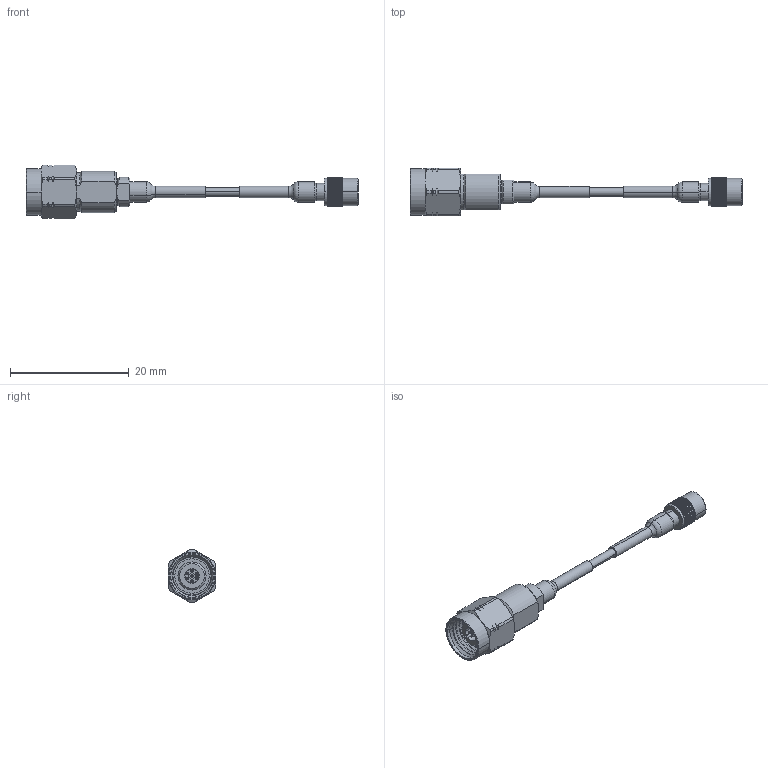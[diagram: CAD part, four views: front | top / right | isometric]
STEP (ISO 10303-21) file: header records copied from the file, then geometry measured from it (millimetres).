
FILE_DESCRIPTION (( 'STEP AP203' ), '1' );
FILE_NAME ('187S10474200.STEP', '2016-08-25T14:31:53', ( '' ), ( '' ), 'SwSTEP 2.0', 'SolidWorks 2014', '' );
FILE_SCHEMA (( 'CONFIG_CONTROL_DESIGN' ));
Length unit declared in the file: inch
Products named in the file (24): C6462-4; 102-1150-700000A; 103-1416-226470A; C6489-4; 4879781010; 102-1121-700000A; P176TL-1CC_CORE GD CABLE END; TLL26-5047_Temp-flex 29 AWG COAX #047SC-29 01; 105-0064-400000A; 7211916111; 2200-18; 107-0005-900000B; 187S10474200; C6294-2; 60-10006-44471A; C6395-2; 101-2068-121470A; 101-2043-440000B; C6398-2_AS MACHINED; 101-2069-440470A; 101-2066-440000A; C6461-1; 101-2070-121470A; 101-2067-440470A
Assembly tree (24 placements, depth 4):
  187S10474200
    4879781010
      60-10006-44471A
        101-2043-440000B
        101-2066-440000A
        101-2067-440470A
        103-1416-226470A
        102-1121-700000A
        105-0064-400000A
        107-0005-900000B
      101-2068-121470A
      101-2069-440470A
      101-2070-121470A
      102-1150-700000A
    TLL26-5047_Temp-flex 29 AWG COAX #047SC-29 01
    P176TL-1CC_CORE GD CABLE END
      2200-18
      C6294-2
      C6395-2
      C6398-2_AS MACHINED
      C6461-1
      C6462-4
      C6489-4
    7211916111  x2
Bounding box: 55.88 x 8 x 9 mm (x, y, z)
Volume: 678 mm3; surface area: 2744.6 mm2
Topology: 22 solids, 22 shells, 938 faces, 2375 edges, 1514 vertices
Faces by surface type: plane 336, cylinder 334, cone 201, torus 36, bspline 31
Entity records: 32961 total; most frequent: CARTESIAN_POINT 7896, DIRECTION 4778, ORIENTED_EDGE 4666, EDGE_CURVE 2333, AXIS2_PLACEMENT_3D 1802, VERTEX_POINT 1494, LINE 1174, VECTOR 1174
